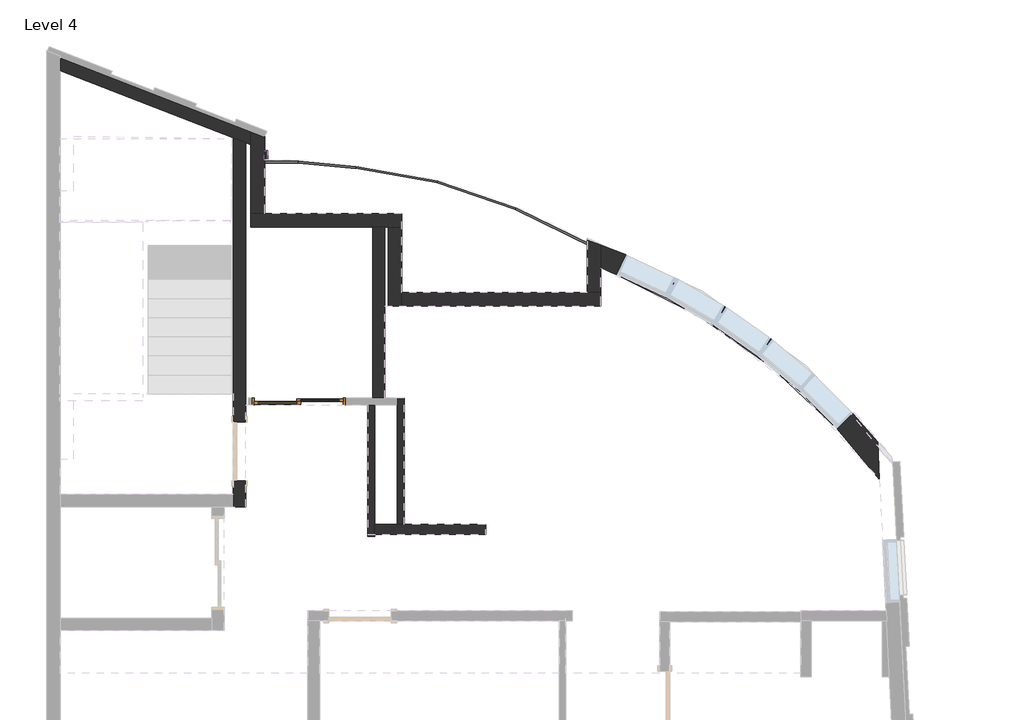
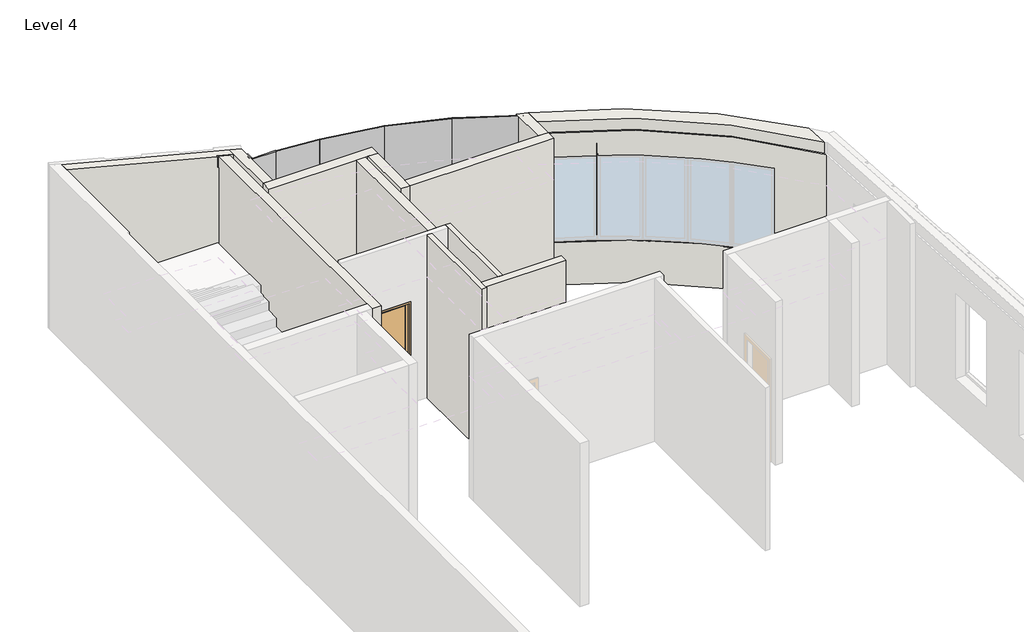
# One storey, part 4 of 5: 13 walls, 5 plates, 2 proxies, 1 door.
"""IFC4 building model written with IfcOpenShell, lengths in millimetres."""

from ifc_helpers import new_model, si_unit, frame, origin, place, context, project, spatial, polyline, circle_curve, outline, extrude, faceted_brep, transform, mapped, element, save
from ifc_brep_helpers import plane_surface, cylinder_surface, revolved_surface, advanced_brep
from components import sliding_door_2_panel_aus_ee5771a8, system_panel_glazed_224d79fb, system_panel_glazed_0fb09b64, system_panel_glazed_2140e779, system_panel_glazed_0c0ff7ba

model = new_model("IFC4")

# Units and contexts
model_context = context("Model", 3, world=origin())
ifc_project = project(units=[si_unit("LENGTHUNIT", "METRE", prefix="MILLI")], contexts=[model_context])

# Site, building, storey
site = spatial("IfcSite", under=ifc_project)
building = spatial("IfcBuilding", under=site)
storey = spatial("IfcBuildingStorey", under=building, Name="Level 4", Elevation=15000.0)

# Proxies
placement = place(None, origin())
element("IfcBuildingElementProxy", 1, Name="Reveal", ObjectType="Reveal", at=placement, inside=storey, context=model_context, shape_type="SweptSolid", body=[
    extrude(outline(polyline([(2938.093022, 13732.1068799), (2988.093022, 13732.1068799), (2988.093022, 13599.3570533), (2938.093022, 13599.3570533), (2938.093022, 13732.1068799)])), frame((0.0, 0.0, 17635.0), z_axis=(0.0, 0.0, 1.0), x_axis=(1.0, 0.0, 0.0)), (0.0, 0.0, 1.0), 50.0),
])
element("IfcBuildingElementProxy", 2, Name="Reveal", ObjectType="Reveal", at=placement, inside=storey, context=model_context, shape_type="SweptSolid", body=[
    extrude(outline(polyline([(2938.093022, 13732.1068799), (2988.093022, 13732.1068799), (2988.093022, 13599.3570533), (2938.093022, 13599.3570533), (2938.093022, 13732.1068799)])), frame((0.0, 0.0, 15875.0), z_axis=(0.0, 0.0, 1.0), x_axis=(1.0, 0.0, 0.0)), (0.0, 0.0, 1.0), 50.0),
])

# Door
sliding_door_2_panel_aus_shape = sliding_door_2_panel_aus_ee5771a8(model_context)
element("IfcDoor", 3, ObjectType="Sliding Door - 2 Panel (AUS) : elavator door", at=placement, inside=storey, context=model_context, shape_type="MappedRepresentation", body=[
    mapped(sliding_door_2_panel_aus_shape, transform((3525.434997, 10056.8748959, 15000.0), x_axis=(-1.0, 0.0, 0.0), y_axis=(0.0, -1.0, 0.0), z_axis=(0.0, 0.0, 1.0))),
])

# Plates
system_panel_glazed_shape = system_panel_glazed_224d79fb(model_context)
element("IfcPlate", 4, ObjectType="System Panel : Glazed", at=placement, inside=storey, context=model_context, shape_type="MappedRepresentation", body=[
    mapped(system_panel_glazed_shape, transform((6054.0124771, 13110.8072352, 15000.0), x_axis=(-0.9455185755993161, 0.32556815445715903, 0.0), y_axis=(-0.32556815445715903, -0.9455185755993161, 0.0), z_axis=(0.0, 0.0, 1.0))),
])
element("IfcPlate", 5, ObjectType="System Panel : Glazed", at=placement, inside=storey, context=model_context, shape_type="MappedRepresentation", body=[
    mapped(system_panel_glazed_shape, transform((4876.5134167, 13415.3291978, 15000.0), x_axis=(-0.9848077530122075, 0.17364817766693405, 0.0), y_axis=(-0.17364817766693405, -0.9848077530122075, 0.0), z_axis=(0.0, 0.0, 1.0))),
])
system_panel_glazed_2_shape = system_panel_glazed_0fb09b64(model_context)
element("IfcPlate", 6, ObjectType="System Panel : Glazed", at=placement, inside=storey, context=model_context, shape_type="MappedRepresentation", body=[
    mapped(system_panel_glazed_2_shape, transform((3856.9795559, 13560.3058198, 15000.0), x_axis=(-0.9956808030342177, 0.09284254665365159, 0.0), y_axis=(-0.09284254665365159, -0.9956808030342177, 0.0), z_axis=(0.0, 0.0, 1.0))),
])
system_panel_glazed_3_shape = system_panel_glazed_2140e779(model_context)
element("IfcPlate", 7, ObjectType="System Panel : Glazed", at=placement, inside=storey, context=model_context, shape_type="MappedRepresentation", body=[
    mapped(system_panel_glazed_3_shape, transform((3189.0685843, 13599.3570533, 15000.0), x_axis=(-1.0, 0.0, 0.0), y_axis=(0.0, -1.0, 0.0), z_axis=(0.0, 0.0, 1.0))),
])
system_panel_glazed_4_shape = system_panel_glazed_0c0ff7ba(model_context)
element("IfcPlate", 8, ObjectType="System Panel : Glazed", at=placement, inside=storey, context=model_context, shape_type="MappedRepresentation", body=[
    mapped(system_panel_glazed_4_shape, transform((7196.5430293, 12636.269013, 15000.0), x_axis=(-0.8987940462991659, 0.43837114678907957, 0.0), y_axis=(-0.43837114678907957, -0.8987940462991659, 0.0), z_axis=(0.0, 0.0, 1.0))),
])

# Walls
element("IfcWall", 9, ObjectType="Generic - 20cm-gypsum-kamposite", at=placement, inside=storey, context=model_context, shape_type="AdvancedBrep", body=[
    advanced_brep(
    [(11908.3121492, 9469.3435074, 18500.0), (7862.3072504, 12351.1222388, 18500.0), (7862.3072504, 12041.0727933, 18500.0), (11933.8152789, 8968.3078963, 18500.0), (7862.3072504, 12351.1222388, 15000.0), (11908.3121492, 9469.3435074, 15000.0), (11936.5482631, 8914.6155682, 15000.0), (7862.3072504, 12008.9189597, 15000.0), (11908.3121492, 9469.3435074, 17745.0), (11544.8906493, 9885.6032931, 17745.0), (11544.8906493, 9885.6032931, 17730.0), (10356.3701317, 10970.353241, 17730.0), (10356.3701317, 10970.353241, 17745.0), (10349.7211648, 10975.4604273, 17745.0), (10349.7211648, 10975.4604273, 17730.0), (9682.5839736, 11443.5981936, 17730.0), (9682.5839736, 11443.5981936, 17745.0), (9675.5092952, 11448.1203824, 17745.0), (9675.5092952, 11448.1203824, 17730.0), (8970.5270255, 11857.0519163, 17730.0), (8970.5270255, 11857.0519163, 17745.0), (8958.907306, 11863.1346618, 17745.0), (8958.907306, 11863.1346618, 17730.0), (8221.1493402, 12209.4555878, 17730.0), (8221.1493402, 12209.4555878, 17745.0), (7862.3072504, 12351.1222388, 17745.0), (7862.3072504, 12351.1222388, 15875.0), (11908.3121492, 9469.3435074, 15875.0), (11908.3121492, 9469.3435074, 15925.0), (11544.8906493, 9885.6032931, 15925.0), (11544.8906493, 9885.6032931, 17695.0), (11908.3121492, 9469.3435074, 17695.0), (8221.1493402, 12209.4555878, 15925.0), (7862.3072504, 12351.1222388, 15925.0), (7862.3072504, 12351.1222388, 17695.0), (8221.1493402, 12209.4555878, 17695.0), (10356.3701317, 10970.353241, 15925.0), (10349.7211648, 10975.4604273, 15925.0), (10349.7211648, 10975.4604273, 17695.0), (10356.3701317, 10970.353241, 17695.0), (9682.5839736, 11443.5981936, 15925.0), (9675.5092952, 11448.1203824, 15925.0), (9675.5092952, 11448.1203824, 17695.0), (9682.5839736, 11443.5981936, 17695.0), (8970.5270255, 11857.0519163, 15925.0), (8958.907306, 11863.1346618, 15925.0), (8958.907306, 11863.1346618, 17695.0), (8970.5270255, 11857.0519163, 17695.0), (11936.5482631, 8914.6155682, 18259.0), (7862.3072504, 12008.9189597, 18259.0), (8085.0423074, 11919.5105106, 15900.0), (8085.0423074, 11919.5105106, 17730.0), (11319.3000133, 9658.2222537, 17730.0), (11319.3000133, 9658.2222537, 15900.0), (11910.4512496, 9427.3186475, 15875.0), (11910.4512496, 9427.3186475, 15925.0), (11910.4512496, 9427.3186475, 17695.0), (11910.4512496, 9427.3186475, 17745.0), (11933.8152789, 8968.3078963, 18259.0), (11527.266896, 9867.8396686, 17730.0), (11527.266896, 9867.8396686, 17695.0), (11527.266896, 9867.8396686, 15925.0), (11527.266896, 9867.8396686, 15900.0), (10335.3479854, 10954.9773917, 17730.0), (10293.8645813, 10895.8599189, 17730.0), (10340.2860207, 10951.1844014, 17730.0), (8210.516289, 12186.8042907, 17730.0), (8948.2742549, 11840.4833647, 17730.0), (8894.6346191, 11726.2163204, 17730.0), (8957.9716481, 11835.4069275, 17730.0), (9662.9539178, 11426.4753937, 17730.0), (9626.6451976, 11363.8805536, 17730.0), (9668.2107942, 11423.1151579, 17730.0), (10293.8645813, 10895.8599189, 15900.0), (10340.2860207, 10951.1844014, 15900.0), (10340.2860207, 10951.1844014, 15925.0), (10340.2860207, 10951.1844014, 17695.0), (10335.3479854, 10954.9773917, 15900.0), (9668.2107942, 11423.1151579, 15900.0), (9626.6451976, 11363.8805536, 15900.0), (9662.9539178, 11426.4753937, 15900.0), (8957.9716481, 11835.4069275, 15900.0), (8894.6346191, 11726.2163204, 15900.0), (8948.2742549, 11840.4833647, 15900.0), (8210.516289, 12186.8042907, 15900.0), (10335.3479854, 10954.9773917, 17695.0), (10335.3479854, 10954.9773917, 15925.0), (9668.2107942, 11423.1151579, 15925.0), (9668.2107942, 11423.1151579, 17695.0), (9662.9539178, 11426.4753937, 17695.0), (9662.9539178, 11426.4753937, 15925.0), (8957.9716481, 11835.4069275, 15925.0), (8957.9716481, 11835.4069275, 17695.0), (8948.2742549, 11840.4833647, 17695.0), (8948.2742549, 11840.4833647, 15925.0), (8210.516289, 12186.8042907, 15925.0), (8210.516289, 12186.8042907, 17695.0), (7862.3072504, 12041.0727933, 18259.0), (7862.3072504, 12324.4469309, 17745.0), (7862.3072504, 12324.4469309, 17695.0), (7862.3072504, 12324.4469309, 15925.0), (7862.3072504, 12324.4469309, 15875.0), (11527.266896, 9867.8396686, 17745.0), (8210.516289, 12186.8042907, 17745.0), (8957.9716481, 11835.4069275, 17745.0), (8948.2742549, 11840.4833647, 17745.0), (9668.2107942, 11423.1151579, 17745.0), (9662.9539178, 11426.4753937, 17745.0), (10340.2860207, 10951.1844014, 17745.0), (10335.3479854, 10954.9773917, 17745.0)],
    [
        (0, 1, circle_curve(frame((4535.6080259, 3399.2748166, 18500.0), z_axis=(0.0, 0.0, 1.0), x_axis=(0.7954529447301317, 0.6060153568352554, 0.0)), 9550.0)),
        (1, 2),
        (2, 3, circle_curve(frame((4535.6080259, 3399.2748166, 18500.0), z_axis=(0.0, 0.0, -1.0), x_axis=(1.0, 0.0, 0.0)), 9260.0)),
        (3, 0),
        (4, 5, circle_curve(frame((4535.6080259, 3399.2748166, 15000.0), z_axis=(0.0, 0.0, -1.0), x_axis=(0.7954529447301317, 0.6060153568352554, 0.0)), 9550.0)),
        (5, 6),
        (6, 7, circle_curve(frame((4535.6080259, 3399.2748166, 15000.0), z_axis=(0.0, 0.0, 1.0), x_axis=(0.7954529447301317, 0.6060153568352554, 0.0)), 9230.0)),
        (7, 4),
        (0, 8),
        (8, 9, circle_curve(frame((4535.6080259, 3399.2748166, 17745.0), z_axis=(0.0, 0.0, 1.0), x_axis=(0.7954529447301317, 0.6060153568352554, 0.0)), 9550.0)),
        (9, 10),
        (10, 11, circle_curve(frame((4535.6080259, 3399.2748166, 17730.0), z_axis=(0.0, 0.0, 1.0), x_axis=(0.7954529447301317, 0.6060153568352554, 0.0)), 9550.0)),
        (11, 12),
        (12, 13, circle_curve(frame((4535.6080259, 3399.2748166, 17745.0), z_axis=(0.0, 0.0, 1.0), x_axis=(0.7954529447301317, 0.6060153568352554, 0.0)), 9550.0)),
        (13, 14),
        (14, 15, circle_curve(frame((4535.6080259, 3399.2748166, 17730.0), z_axis=(0.0, 0.0, 1.0), x_axis=(0.7954529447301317, 0.6060153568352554, 0.0)), 9550.0)),
        (15, 16),
        (16, 17, circle_curve(frame((4535.6080259, 3399.2748166, 17745.0), z_axis=(0.0, 0.0, 1.0), x_axis=(0.7954529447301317, 0.6060153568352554, 0.0)), 9550.0)),
        (17, 18),
        (18, 19, circle_curve(frame((4535.6080259, 3399.2748166, 17730.0), z_axis=(0.0, 0.0, 1.0), x_axis=(0.7954529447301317, 0.6060153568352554, 0.0)), 9550.0)),
        (19, 20),
        (20, 21, circle_curve(frame((4535.6080259, 3399.2748166, 17745.0), z_axis=(0.0, 0.0, 1.0), x_axis=(0.7954529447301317, 0.6060153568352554, 0.0)), 9550.0)),
        (21, 22),
        (22, 23, circle_curve(frame((4535.6080259, 3399.2748166, 17730.0), z_axis=(0.0, 0.0, 1.0), x_axis=(0.7954529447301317, 0.6060153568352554, 0.0)), 9550.0)),
        (23, 24),
        (24, 25, circle_curve(frame((4535.6080259, 3399.2748166, 17745.0), z_axis=(0.0, 0.0, 1.0), x_axis=(0.7954529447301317, 0.6060153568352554, 0.0)), 9550.0)),
        (25, 1),
        (4, 26),
        (26, 27, circle_curve(frame((4535.6080259, 3399.2748166, 15875.0), z_axis=(0.0, 0.0, -1.0), x_axis=(0.7954529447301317, 0.6060153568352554, 0.0)), 9550.0)),
        (27, 5),
        (28, 29, circle_curve(frame((4535.6080259, 3399.2748166, 15925.0), z_axis=(0.0, 0.0, 1.0), x_axis=(0.7954529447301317, 0.6060153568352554, 0.0)), 9550.0)),
        (29, 30),
        (30, 31, circle_curve(frame((4535.6080259, 3399.2748166, 17695.0), z_axis=(0.0, 0.0, -1.0), x_axis=(0.7954529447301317, 0.6060153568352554, 0.0)), 9550.0)),
        (31, 28),
        (32, 33, circle_curve(frame((4535.6080259, 3399.2748166, 15925.0), z_axis=(0.0, 0.0, 1.0), x_axis=(0.7954529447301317, 0.6060153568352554, 0.0)), 9550.0)),
        (33, 34),
        (34, 35, circle_curve(frame((4535.6080259, 3399.2748166, 17695.0), z_axis=(0.0, 0.0, -1.0), x_axis=(0.7954529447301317, 0.6060153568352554, 0.0)), 9550.0)),
        (35, 32),
        (36, 37, circle_curve(frame((4535.6080259, 3399.2748166, 15925.0), z_axis=(0.0, 0.0, 1.0), x_axis=(0.7954529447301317, 0.6060153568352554, 0.0)), 9550.0)),
        (37, 38),
        (38, 39, circle_curve(frame((4535.6080259, 3399.2748166, 17695.0), z_axis=(0.0, 0.0, -1.0), x_axis=(0.7954529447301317, 0.6060153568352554, 0.0)), 9550.0)),
        (39, 36),
        (40, 41, circle_curve(frame((4535.6080259, 3399.2748166, 15925.0), z_axis=(0.0, 0.0, 1.0), x_axis=(0.7954529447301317, 0.6060153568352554, 0.0)), 9550.0)),
        (41, 42),
        (42, 43, circle_curve(frame((4535.6080259, 3399.2748166, 17695.0), z_axis=(0.0, 0.0, -1.0), x_axis=(0.7954529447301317, 0.6060153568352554, 0.0)), 9550.0)),
        (43, 40),
        (44, 45, circle_curve(frame((4535.6080259, 3399.2748166, 15925.0), z_axis=(0.0, 0.0, 1.0), x_axis=(0.7954529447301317, 0.6060153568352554, 0.0)), 9550.0)),
        (45, 46),
        (46, 47, circle_curve(frame((4535.6080259, 3399.2748166, 17695.0), z_axis=(0.0, 0.0, -1.0), x_axis=(0.7954529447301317, 0.6060153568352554, 0.0)), 9550.0)),
        (47, 44),
        (6, 48),
        (48, 49, circle_curve(frame((4535.6080259, 3399.2748166, 18259.0), z_axis=(0.0, 0.0, 1.0), x_axis=(0.7954529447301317, 0.6060153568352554, 0.0)), 9230.0)),
        (49, 7),
        (50, 51),
        (51, 52, circle_curve(frame((4535.6080259, 3399.2748166, 17730.0), z_axis=(0.0, 0.0, -1.0), x_axis=(0.7954529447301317, 0.6060153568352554, 0.0)), 9230.0)),
        (52, 53),
        (53, 50, circle_curve(frame((4535.6080259, 3399.2748166, 15900.0), z_axis=(0.0, 0.0, 1.0), x_axis=(0.7954529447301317, 0.6060153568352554, 0.0)), 9230.0)),
        (27, 54),
        (54, 55),
        (55, 28),
        (31, 56),
        (56, 57),
        (57, 8),
        (3, 58),
        (58, 48),
        (52, 59),
        (59, 60),
        (60, 30),
        (29, 61),
        (61, 62),
        (62, 53),
        (14, 63),
        (63, 64),
        (64, 65),
        (65, 11),
        (10, 59),
        (51, 66),
        (66, 23),
        (22, 67),
        (67, 68),
        (68, 69),
        (69, 19),
        (18, 70),
        (70, 71),
        (71, 72),
        (72, 15),
        (64, 73),
        (73, 74),
        (74, 75),
        (75, 36),
        (39, 76),
        (76, 65),
        (62, 74, circle_curve(frame((4535.6080259, 3399.2748166, 15900.0), z_axis=(0.0, 0.0, 1.0), x_axis=(0.32740306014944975, 0.9448847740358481, 0.0)), 9525.0)),
        (73, 77),
        (77, 78, circle_curve(frame((4535.6080259, 3399.2748166, 15900.0), z_axis=(0.0, 0.0, 1.0), x_axis=(0.32740306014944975, 0.9448847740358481, 0.0)), 9525.0)),
        (78, 79),
        (79, 80),
        (80, 81, circle_curve(frame((4535.6080259, 3399.2748166, 15900.0), z_axis=(0.0, 0.0, 1.0), x_axis=(0.32740306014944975, 0.9448847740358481, 0.0)), 9525.0)),
        (81, 82),
        (82, 83),
        (83, 84, circle_curve(frame((4535.6080259, 3399.2748166, 15900.0), z_axis=(0.0, 0.0, 1.0), x_axis=(0.32740306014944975, 0.9448847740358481, 0.0)), 9525.0)),
        (84, 50),
        (63, 85),
        (85, 38),
        (37, 86),
        (86, 77),
        (71, 79),
        (78, 87),
        (87, 40),
        (43, 88),
        (88, 72),
        (70, 89),
        (89, 42),
        (41, 90),
        (90, 80),
        (68, 82),
        (81, 91),
        (91, 44),
        (47, 92),
        (92, 69),
        (67, 93),
        (93, 46),
        (45, 94),
        (94, 83),
        (84, 95),
        (95, 32),
        (35, 96),
        (96, 66),
        (49, 97),
        (97, 2),
        (25, 98),
        (98, 99),
        (99, 34),
        (33, 100),
        (100, 101),
        (101, 26),
        (55, 61, circle_curve(frame((4535.6080259, 3399.2748166, 15925.0), z_axis=(0.0, 0.0, 1.0), x_axis=(0.32740306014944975, 0.9448847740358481, 0.0)), 9525.0)),
        (95, 100, circle_curve(frame((4535.6080259, 3399.2748166, 15925.0), z_axis=(0.0, 0.0, 1.0), x_axis=(0.32740306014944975, 0.9448847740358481, 0.0)), 9525.0)),
        (75, 86, circle_curve(frame((4535.6080259, 3399.2748166, 15925.0), z_axis=(0.0, 0.0, 1.0), x_axis=(0.32740306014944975, 0.9448847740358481, 0.0)), 9525.0)),
        (87, 90, circle_curve(frame((4535.6080259, 3399.2748166, 15925.0), z_axis=(0.0, 0.0, 1.0), x_axis=(0.32740306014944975, 0.9448847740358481, 0.0)), 9525.0)),
        (91, 94, circle_curve(frame((4535.6080259, 3399.2748166, 15925.0), z_axis=(0.0, 0.0, 1.0), x_axis=(0.32740306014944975, 0.9448847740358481, 0.0)), 9525.0)),
        (101, 54, circle_curve(frame((4535.6080259, 3399.2748166, 15875.0), z_axis=(0.0, 0.0, -1.0), x_axis=(0.32740306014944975, 0.9448847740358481, 0.0)), 9525.0)),
        (57, 102, circle_curve(frame((4535.6080259, 3399.2748166, 17745.0), z_axis=(0.0, 0.0, 1.0), x_axis=(0.7339562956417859, 0.6791966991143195, 0.0)), 9525.0)),
        (102, 9),
        (60, 56, circle_curve(frame((4535.6080259, 3399.2748166, 17695.0), z_axis=(0.0, 0.0, -1.0), x_axis=(0.7339562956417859, 0.6791966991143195, 0.0)), 9525.0)),
        (59, 102),
        (24, 103),
        (103, 98, circle_curve(frame((4535.6080259, 3399.2748166, 17745.0), z_axis=(0.0, 0.0, 1.0), x_axis=(0.32740306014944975, 0.9448847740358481, 0.0)), 9525.0)),
        (99, 96, circle_curve(frame((4535.6080259, 3399.2748166, 17695.0), z_axis=(0.0, 0.0, -1.0), x_axis=(0.32740306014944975, 0.9448847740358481, 0.0)), 9525.0)),
        (103, 66),
        (104, 105, circle_curve(frame((4535.6080259, 3399.2748166, 17745.0), z_axis=(0.0, 0.0, 1.0), x_axis=(0.4631726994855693, 0.8862680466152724, 0.0)), 9525.0)),
        (105, 21),
        (20, 104),
        (93, 92, circle_curve(frame((4535.6080259, 3399.2748166, 17695.0), z_axis=(0.0, 0.0, -1.0), x_axis=(0.4631726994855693, 0.8862680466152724, 0.0)), 9525.0)),
        (104, 69),
        (67, 105),
        (106, 107, circle_curve(frame((4535.6080259, 3399.2748166, 17745.0), z_axis=(0.0, 0.0, 1.0), x_axis=(0.5382095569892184, 0.8428110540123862, 0.0)), 9525.0)),
        (107, 17),
        (16, 106),
        (89, 88, circle_curve(frame((4535.6080259, 3399.2748166, 17695.0), z_axis=(0.0, 0.0, -1.0), x_axis=(0.5382095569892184, 0.8428110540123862, 0.0)), 9525.0)),
        (106, 72),
        (70, 107),
        (108, 109, circle_curve(frame((4535.6080259, 3399.2748166, 17745.0), z_axis=(0.0, 0.0, 1.0), x_axis=(0.6088076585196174, 0.7933178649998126, 0.0)), 9525.0)),
        (109, 13),
        (12, 108),
        (85, 76, circle_curve(frame((4535.6080259, 3399.2748166, 17695.0), z_axis=(0.0, 0.0, -1.0), x_axis=(0.6088076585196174, 0.7933178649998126, 0.0)), 9525.0)),
        (108, 65),
        (63, 109),
        (58, 97, circle_curve(frame((4535.6080259, 3399.2748166, 18259.0), z_axis=(0.0, 0.0, 1.0), x_axis=(1.0, 0.0, 0.0)), 9260.0)),
    ],
    [
        plane_surface(frame((12132.1836481, 9186.7214744, 18500.0), z_axis=(0.0, 0.0, 1.0), x_axis=(-0.6060153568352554, 0.7954529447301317, 0.0))),
        plane_surface(frame((12132.1836481, 9186.7214744, 15000.0), z_axis=(0.0, 0.0, -1.0), x_axis=(0.6060153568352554, -0.7954529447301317, 0.0))),
        cylinder_surface(frame((4535.6080259, 3399.2748166, 15000.0), z_axis=(0.0, 0.0, 1.0), x_axis=(0.7954529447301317, 0.6060153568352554, 0.0)), 9550.0),
        revolved_surface(polyline([(11877.638705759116, 8992.796560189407, 15000.0), (11877.638705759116, 8992.796560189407, 18259.0)]), (4535.6080259, 3399.2748166, 15000.0), (0.0, 0.0, -1.0)),
        plane_surface(frame((11929.5360205, 9052.3783941, 15000.0), z_axis=(0.9987070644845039, 0.05083502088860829, 0.0), x_axis=(0.05083502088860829, -0.9987070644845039, 0.0))),
        plane_surface(frame((10471.5277129, 8803.721596, 15900.0), z_axis=(-0.7098961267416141, 0.7043063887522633, 0.0), x_axis=(0.7043063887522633, 0.7098961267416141, 0.0))),
        plane_surface(frame((10001.1116007, 9279.0246578, 17730.0), z_axis=(0.0, 0.0, -1.0), x_axis=(0.6427769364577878, 0.7660533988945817, 0.0))),
        plane_surface(frame((9376.7780806, 9802.887861, 17730.0), z_axis=(0.7660533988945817, -0.6427769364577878, 0.0), x_axis=(0.6427769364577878, 0.7660533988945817, 0.0))),
        plane_surface(frame((9376.7780806, 9802.887861, 15900.0), z_axis=(0.0, 0.0, 1.0), x_axis=(0.6427769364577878, 0.7660533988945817, 0.0))),
        plane_surface(frame((9474.332262, 9727.9548086, 15900.0), z_axis=(-0.8185732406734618, 0.5744021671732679, 0.0), x_axis=(0.5744021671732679, 0.8185732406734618, 0.0))),
        plane_surface(frame((8807.1950709, 10196.0925748, 17730.0), z_axis=(0.8185732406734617, -0.574402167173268, 0.0), x_axis=(0.574402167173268, 0.8185732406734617, 0.0))),
        plane_surface(frame((8910.8324147, 10129.8467885, 15900.0), z_axis=(-0.8650089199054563, 0.5017564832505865, 0.0), x_axis=(0.5017564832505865, 0.8650089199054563, 0.0))),
        plane_surface(frame((8205.850145, 10538.7783223, 17730.0), z_axis=(0.8650089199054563, -0.5017564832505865, 0.0), x_axis=(0.5017564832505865, 0.8650089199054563, 0.0))),
        plane_surface(frame((8311.308421, 10483.5725268, 15900.0), z_axis=(-0.9052244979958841, 0.42493365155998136, 0.0), x_axis=(0.42493365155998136, 0.9052244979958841, 0.0))),
        plane_surface(frame((7573.5504552, 10829.8934528, 17730.0), z_axis=(0.9052244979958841, -0.42493365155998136, 0.0), x_axis=(0.42493365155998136, 0.9052244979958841, 0.0))),
        plane_surface(frame((7862.3072504, 12316.4556234, 15000.0), z_axis=(-1.0, 0.0, 0.0), x_axis=(0.0, 1.0, 0.0))),
        plane_surface(frame((4535.6080259, 3399.2748166, 15925.0), z_axis=(0.0, 0.0, -1.0), x_axis=(0.32740306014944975, 0.9448847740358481, 0.0))),
        plane_surface(frame((4535.6080259, 3399.2748166, 15875.0), z_axis=(0.0, 0.0, 1.0), x_axis=(0.32740306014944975, 0.9448847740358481, 0.0))),
        cylinder_surface(frame((4535.6080259, 3399.2748166, 15900.0), z_axis=(0.0, 0.0, -1.0), x_axis=(0.32740306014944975, 0.9448847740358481, 0.0)), 9525.0),
        plane_surface(frame((4535.6080259, 3399.2748166, 17745.0), z_axis=(0.0, 0.0, -1.0), x_axis=(0.7339562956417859, 0.6791966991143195, 0.0))),
        plane_surface(frame((4535.6080259, 3399.2748166, 17695.0), z_axis=(0.0, 0.0, 1.0), x_axis=(0.7339562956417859, 0.6791966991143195, 0.0))),
        cylinder_surface(frame((4535.6080259, 3399.2748166, 17720.0), z_axis=(0.0, 0.0, -1.0), x_axis=(0.7339562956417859, 0.6791966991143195, 0.0)), 9525.0),
        plane_surface(frame((4535.6080259, 3399.2748166, 17745.0), z_axis=(0.0, 0.0, -1.0), x_axis=(0.32740306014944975, 0.9448847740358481, 0.0))),
        plane_surface(frame((4535.6080259, 3399.2748166, 17695.0), z_axis=(0.0, 0.0, 1.0), x_axis=(0.32740306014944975, 0.9448847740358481, 0.0))),
        cylinder_surface(frame((4535.6080259, 3399.2748166, 17720.0), z_axis=(0.0, 0.0, -1.0), x_axis=(0.32740306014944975, 0.9448847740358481, 0.0)), 9525.0),
        plane_surface(frame((7573.5504552, 10829.8934528, 17730.0), z_axis=(-0.9052244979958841, 0.42493365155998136, 0.0), x_axis=(0.42493365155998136, 0.9052244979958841, 0.0))),
        plane_surface(frame((4535.6080259, 3399.2748166, 17745.0), z_axis=(0.0, 0.0, -1.0), x_axis=(0.4631726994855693, 0.8862680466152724, 0.0))),
        plane_surface(frame((4535.6080259, 3399.2748166, 17695.0), z_axis=(0.0, 0.0, 1.0), x_axis=(0.4631726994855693, 0.8862680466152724, 0.0))),
        cylinder_surface(frame((4535.6080259, 3399.2748166, 17720.0), z_axis=(0.0, 0.0, -1.0), x_axis=(0.4631726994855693, 0.8862680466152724, 0.0)), 9525.0),
        plane_surface(frame((8311.308421, 10483.5725268, 15900.0), z_axis=(0.9052244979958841, -0.42493365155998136, 0.0), x_axis=(0.42493365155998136, 0.9052244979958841, 0.0))),
        plane_surface(frame((8205.850145, 10538.7783223, 17730.0), z_axis=(-0.8650089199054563, 0.5017564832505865, 0.0), x_axis=(0.5017564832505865, 0.8650089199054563, 0.0))),
        plane_surface(frame((4535.6080259, 3399.2748166, 17745.0), z_axis=(0.0, 0.0, -1.0), x_axis=(0.5382095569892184, 0.8428110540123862, 0.0))),
        plane_surface(frame((4535.6080259, 3399.2748166, 17695.0), z_axis=(0.0, 0.0, 1.0), x_axis=(0.5382095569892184, 0.8428110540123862, 0.0))),
        cylinder_surface(frame((4535.6080259, 3399.2748166, 17720.0), z_axis=(0.0, 0.0, -1.0), x_axis=(0.5382095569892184, 0.8428110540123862, 0.0)), 9525.0),
        plane_surface(frame((8910.8324147, 10129.8467885, 15900.0), z_axis=(0.8650089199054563, -0.5017564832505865, 0.0), x_axis=(0.5017564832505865, 0.8650089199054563, 0.0))),
        plane_surface(frame((8807.1950709, 10196.0925748, 17730.0), z_axis=(-0.8185732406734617, 0.574402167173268, 0.0), x_axis=(0.574402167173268, 0.8185732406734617, 0.0))),
        plane_surface(frame((4535.6080259, 3399.2748166, 17745.0), z_axis=(0.0, 0.0, -1.0), x_axis=(0.6088076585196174, 0.7933178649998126, 0.0))),
        plane_surface(frame((4535.6080259, 3399.2748166, 17695.0), z_axis=(0.0, 0.0, 1.0), x_axis=(0.6088076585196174, 0.7933178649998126, 0.0))),
        cylinder_surface(frame((4535.6080259, 3399.2748166, 17720.0), z_axis=(0.0, 0.0, -1.0), x_axis=(0.6088076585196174, 0.7933178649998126, 0.0)), 9525.0),
        plane_surface(frame((9474.332262, 9727.9548086, 15900.0), z_axis=(0.8185732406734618, -0.5744021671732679, 0.0), x_axis=(0.5744021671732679, 0.8185732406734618, 0.0))),
        plane_surface(frame((9376.7780806, 9802.887861, 17730.0), z_axis=(-0.7660533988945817, 0.6427769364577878, 0.0), x_axis=(0.6427769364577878, 0.7660533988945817, 0.0))),
        plane_surface(frame((10471.5277129, 8803.721596, 15900.0), z_axis=(0.7098961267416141, -0.7043063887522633, 0.0), x_axis=(0.7043063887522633, 0.7098961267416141, 0.0))),
        plane_surface(frame((-80.0421304, 14944.8648867, 18259.0), z_axis=(0.0, 0.0, 1.0), x_axis=(0.9323005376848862, -0.36168454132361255, 0.0))),
        revolved_surface(polyline([(13795.608025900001, 3399.2748166, 18259.0), (13795.608025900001, 3399.2748166, 18500.0)]), (4535.6080259, 3399.2748166, 18500.0), (0.0, 0.0, -1.0)),
    ],
    [
        (0, [[1, 2, 3, 4]]),
        (1, [[5, 6, 7, 8]]),
        (2, [[-1, 9, 10, 11, 12, 13, 14, 15, 16, 17, 18, 19, 20, 21, 22, 23, 24, 25, 26, 27]]),
        (2, [[-5, 28, 29, 30]]),
        (2, [[31, 32, 33, 34]]),
        (2, [[35, 36, 37, 38]]),
        (2, [[39, 40, 41, 42]]),
        (2, [[43, 44, 45, 46]]),
        (2, [[47, 48, 49, 50]]),
        (3, [[-7, 51, 52, 53], [54, 55, 56, 57]]),
        (4, [[-6, -30, 58, 59, 60, -34, 61, 62, 63, -9, -4, 64, 65, -51]]),
        (5, [[-56, 66, 67, 68, -32, 69, 70, 71]]),
        (6, [[-16, 72, 73, 74, 75, -12, 76, -66, -55, 77, 78, -24, 79, 80, 81, 82, -20, 83, 84, 85, 86]]),
        (7, [[87, 88, 89, 90, -42, 91, 92, -74]]),
        (8, [[-57, -71, 93, -88, 94, 95, 96, 97, 98, 99, 100, 101, 102]]),
        (9, [[-87, -73, 103, 104, -40, 105, 106, -94]]),
        (10, [[107, -96, 108, 109, -46, 110, 111, -85]]),
        (11, [[-107, -84, 112, 113, -44, 114, 115, -97]]),
        (12, [[116, -99, 117, 118, -50, 119, 120, -81]]),
        (13, [[-116, -80, 121, 122, -48, 123, 124, -100]]),
        (14, [[-54, -102, 125, 126, -38, 127, 128, -77]]),
        (15, [[-8, -53, 129, 130, -2, -27, 131, 132, 133, -36, 134, 135, 136, -28]]),
        (16, [[137, -69, -31, -60]]),
        (16, [[-134, -35, -126, 138]]),
        (16, [[139, -105, -39, -90]]),
        (16, [[140, -114, -43, -109]]),
        (16, [[141, -123, -47, -118]]),
        (17, [[142, -58, -29, -136]]),
        (18, [[-137, -59, -142, -135, -138, -125, -101, -124, -141, -117, -98, -115, -140, -108, -95, -106, -139, -89, -93, -70]]),
        (19, [[143, 144, -10, -63]]),
        (20, [[145, -61, -33, -68]]),
        (21, [[-143, -62, -145, -67, 146]]),
        (22, [[147, 148, -131, -26]]),
        (23, [[149, -127, -37, -133]]),
        (24, [[150, -128, -149, -132, -148]]),
        (25, [[-150, -147, -25, -78]]),
        (26, [[151, 152, -22, 153]]),
        (27, [[154, -119, -49, -122]]),
        (28, [[-151, 155, -120, -154, -121, 156]]),
        (29, [[-156, -79, -23, -152]]),
        (30, [[-155, -153, -21, -82]]),
        (31, [[157, 158, -18, 159]]),
        (32, [[160, -110, -45, -113]]),
        (33, [[-157, 161, -111, -160, -112, 162]]),
        (34, [[-162, -83, -19, -158]]),
        (35, [[-161, -159, -17, -86]]),
        (36, [[163, 164, -14, 165]]),
        (37, [[166, -91, -41, -104]]),
        (38, [[-163, 167, -92, -166, -103, 168]]),
        (39, [[-168, -72, -15, -164]]),
        (40, [[-167, -165, -13, -75]]),
        (41, [[-146, -76, -11, -144]]),
        (42, [[169, -129, -52, -65]]),
        (43, [[-169, -64, -3, -130]]),
    ],
),
])
element("IfcWall", 10, ObjectType="Generic - 15cm-gypsu-2boith", at=placement, inside=storey, context=model_context, shape_type="Brep", body=[
    faceted_brep([(4549.2779066, 8112.262158, 15000.0), (6174.9402277, 8112.262158, 15000.0), (6174.9402277, 8112.262158, 18500.0), (4549.2779066, 8112.262158, 18500.0), (4549.2779066, 8262.262158, 15000.0), (4549.2779066, 8262.262158, 18500.0), (4879.9402277, 8262.262158, 18500.0), (4979.9402277, 8262.262158, 18500.0), (6174.9402277, 8262.262158, 18500.0), (6174.9402277, 8262.262158, 15000.0), (4979.9402277, 8262.262158, 15000.0), (4879.9402277, 8262.262158, 15000.0)], [[[0, 1, 2, 3]], [[4, 5, 6, 7, 8, 9, 10, 11]], [[1, 0, 4, 11, 10, 9]], [[2, 1, 9, 8]], [[3, 2, 8, 7, 6, 5]], [[0, 3, 5, 4]]]),
])
element("IfcWall", 11, ObjectType="Generic - 10cm-gypsu-2boith", at=placement, inside=storey, context=model_context, shape_type="Brep", body=[
    faceted_brep([(4549.2779066, 8082.262158, 15000.0), (4549.2779066, 8112.262158, 15000.0), (4549.2779066, 8262.262158, 15000.0), (4549.2779066, 10006.8748959, 15000.0), (4549.2779066, 10006.8748959, 18500.0), (4549.2779066, 8262.262158, 18500.0), (4549.2779066, 8112.262158, 18500.0), (4549.2779066, 8082.262158, 18500.0), (4449.2779066, 8082.262158, 15000.0), (4449.2779066, 8082.262158, 18500.0), (4449.2779066, 10006.8748959, 18500.0), (4449.2779066, 10006.8748959, 15000.0)], [[[0, 1, 2, 3, 4, 5, 6, 7]], [[8, 9, 10, 11]], [[3, 2, 1, 0, 8, 11]], [[7, 6, 5, 4, 10, 9]], [[0, 7, 9, 8]], [[4, 3, 11, 10]]]),
])
element("IfcWall", 12, ObjectType="Generic - 10cm-gypsu-2boith", at=placement, inside=storey, context=model_context, shape_type="Brep", body=[
    faceted_brep([(4879.9402277, 10106.8748959, 15000.0), (4879.9402277, 10006.8748959, 15000.0), (4879.9402277, 8262.262158, 15000.0), (4879.9402277, 8262.262158, 18500.0), (4879.9402277, 10006.8748959, 18500.0), (4879.9402277, 10106.8748959, 18500.0), (4979.9402277, 10106.8748959, 15000.0), (4979.9402277, 10106.8748959, 18500.0), (4979.9402277, 8262.262158, 18500.0), (4979.9402277, 8262.262158, 15000.0)], [[[0, 1, 2, 3, 4, 5]], [[6, 7, 8, 9]], [[2, 1, 0, 6, 9]], [[5, 4, 3, 8, 7]], [[3, 2, 9, 8]], [[0, 5, 7, 6]]]),
])
element("IfcWall", 13, ObjectType="Generic - 18cm-gypsu-2boith 2", at=placement, inside=storey, context=model_context, shape_type="Brep", body=[
    faceted_brep([(2661.8607589, 8516.8748746, 15000.0), (2661.8607589, 8896.8748746, 15000.0), (2661.8607589, 8896.8748746, 17032.0), (2661.8607589, 9760.8748746, 17032.0), (2661.8607589, 9760.8748746, 15000.0), (2661.8607589, 13848.9694672, 15000.0), (2661.8607589, 13848.9694672, 18500.0), (2661.8607589, 8516.8748746, 18500.0), (2481.8607589, 8896.8748746, 17032.0), (2481.8607589, 8896.8748746, 15000.0), (2481.8607589, 8696.8748746, 15000.0), (2481.8607589, 8516.8748746, 15000.0), (2481.8607589, 8516.8748746, 18500.0), (2481.8607589, 8696.8748746, 18500.0), (2481.8607589, 13918.8001868, 18500.0), (2481.8607589, 13918.8001868, 15000.0), (2481.8607589, 9760.8748746, 15000.0), (2481.8607589, 9760.8748746, 17032.0)], [[[0, 1, 2, 3, 4, 5, 6, 7]], [[8, 9, 10, 11, 12, 13, 14, 15, 16, 17]], [[16, 15, 5, 4]], [[11, 10, 9, 1, 0]], [[7, 6, 14, 13, 12]], [[6, 5, 15, 14]], [[0, 7, 12, 11]], [[2, 1, 9, 8]], [[3, 2, 8, 17]], [[4, 3, 17, 16]]]),
])
element("IfcWall", 14, ObjectType="Generic - 18cm-gypsu-2boith 2", at=placement, inside=storey, context=model_context, shape_type="SweptSolid", body=[
    extrude(outline(polyline([(4519.9587688, 10106.8748959), (4519.9587688, 12611.9409286), (4699.9587688, 12611.9409286), (4699.9587688, 10106.8748959), (4519.9587688, 10106.8748959)])), frame((0.0, 0.0, 15000.0), z_axis=(0.0, 0.0, 1.0), x_axis=(1.0, 0.0, 0.0)), (0.0, 0.0, 1.0), 3500.0),
])
element("IfcWall", 15, ObjectType="kamposite5cm", at=placement, inside=storey, context=model_context, shape_type="Brep", body=[
    faceted_brep([(2913.093022, 13751.504302, 15000.0), (2913.093022, 13599.3570533, 15000.0), (2913.093022, 13599.3570533, 18500.0), (2913.093022, 13751.504302, 18500.0), (2963.093022, 13599.3570533, 15000.0), (2963.093022, 13732.1068799, 15000.0), (2963.093022, 13732.1068799, 15875.0), (2963.093022, 13599.3570533, 15875.0), (2963.093022, 13732.1068799, 18500.0), (2963.093022, 13599.3570533, 18500.0), (2963.093022, 13599.3570533, 17685.0), (2963.093022, 13732.1068799, 17685.0), (2963.093022, 13732.1068799, 17635.0), (2963.093022, 13599.3570533, 17635.0), (2963.093022, 13599.3570533, 15925.0), (2963.093022, 13732.1068799, 15925.0), (2938.093022, 13599.3570533, 15875.0), (2938.093022, 13599.3570533, 15925.0), (2938.093022, 13599.3570533, 17635.0), (2938.093022, 13599.3570533, 17685.0), (2938.093022, 13732.1068799, 17685.0), (2938.093022, 13732.1068799, 17635.0), (2938.093022, 13732.1068799, 15925.0), (2938.093022, 13732.1068799, 15875.0)], [[[0, 1, 2, 3]], [[4, 5, 6, 7]], [[8, 9, 10, 11]], [[12, 13, 14, 15]], [[1, 0, 5, 4]], [[2, 1, 4, 7, 16, 17, 14, 13, 18, 19, 10, 9]], [[3, 2, 9, 8]], [[20, 21, 12, 11]], [[19, 20, 11, 10]], [[21, 18, 13, 12]], [[21, 20, 19, 18]], [[22, 23, 6, 15]], [[17, 22, 15, 14]], [[23, 16, 7, 6]], [[23, 22, 17, 16]], [[0, 3, 8, 11, 12, 15, 6, 5]]]),
])
element("IfcWall", 16, ObjectType="Generic - 20cm-gypsum", at=placement, inside=storey, context=model_context, shape_type="Brep", body=[
    faceted_brep([(4949.6116933, 11454.5991251, 15000.0), (7862.3072504, 11454.5991251, 15000.0), (7862.3072504, 11454.5991251, 18500.0), (4949.6116933, 11454.5991251, 18500.0), (4949.6116933, 11654.5991251, 15000.0), (4949.6116933, 11654.5991251, 18500.0), (7662.3072504, 11654.5991251, 18500.0), (7862.3072504, 11654.5991251, 18500.0), (7862.3072504, 11654.5991251, 15000.0), (7662.3072504, 11654.5991251, 15000.0)], [[[0, 1, 2, 3]], [[4, 5, 6, 7, 8, 9]], [[1, 0, 4, 9, 8]], [[3, 2, 7, 6, 5]], [[2, 1, 8, 7]], [[0, 3, 5, 4]]]),
])
element("IfcWall", 17, ObjectType="Generic - 20cm-gypsum", at=placement, inside=storey, context=model_context, shape_type="AdvancedBrep", body=[
    advanced_brep(
    [(7862.3072504, 11654.5991251, 15000.0), (7862.3072504, 12008.9189597, 15000.0), (7862.3072504, 12351.1222388, 15000.0), (7862.3072504, 12351.1222388, 15875.0), (7862.3072504, 12324.4469309, 15875.0), (7862.3072504, 12324.4469309, 15925.0), (7862.3072504, 12351.1222388, 15925.0), (7862.3072504, 12351.1222388, 17695.0), (7862.3072504, 12324.4469309, 17695.0), (7862.3072504, 12324.4469309, 17745.0), (7862.3072504, 12351.1222388, 17745.0), (7862.3072504, 12351.1222388, 18500.0), (7862.3072504, 12041.0727933, 18500.0), (7862.3072504, 11654.5991251, 18500.0), (7662.3072504, 12422.9244086, 15000.0), (7662.3072504, 11654.5991251, 15000.0), (7662.3072504, 11654.5991251, 18500.0), (7662.3072504, 12422.9244086, 18500.0), (7662.3072504, 12422.9244086, 17745.0), (7662.3072504, 12396.4619859, 17745.0), (7662.3072504, 12396.4619859, 17695.0), (7662.3072504, 12422.9244086, 17695.0), (7662.3072504, 12422.9244086, 15925.0), (7662.3072504, 12396.4619859, 15925.0), (7662.3072504, 12396.4619859, 15875.0), (7662.3072504, 12422.9244086, 15875.0)],
    [
        (0, 1),
        (1, 2),
        (2, 3),
        (3, 4),
        (4, 5),
        (5, 6),
        (6, 7),
        (7, 8),
        (8, 9),
        (9, 10),
        (10, 11),
        (11, 12),
        (12, 13),
        (13, 0),
        (14, 15),
        (15, 16),
        (16, 17),
        (17, 18),
        (18, 19),
        (19, 20),
        (20, 21),
        (21, 22),
        (22, 23),
        (23, 24),
        (24, 25),
        (25, 14),
        (0, 15),
        (14, 2, circle_curve(frame((4535.6080259, 3399.2748166, 15000.0), z_axis=(0.0, 0.0, -1.0), x_axis=(0.7954529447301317, 0.6060153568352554, 0.0)), 9550.0)),
        (11, 17, circle_curve(frame((4535.6080259, 3399.2748166, 18500.0), z_axis=(0.0, 0.0, 1.0), x_axis=(0.7954529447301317, 0.6060153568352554, 0.0)), 9550.0)),
        (16, 13),
        (25, 3, circle_curve(frame((4535.6080259, 3399.2748166, 15875.0), z_axis=(0.0, 0.0, -1.0), x_axis=(0.7954529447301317, 0.6060153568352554, 0.0)), 9550.0)),
        (10, 18, circle_curve(frame((4535.6080259, 3399.2748166, 17745.0), z_axis=(0.0, 0.0, 1.0), x_axis=(0.7954529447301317, 0.6060153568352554, 0.0)), 9550.0)),
        (6, 22, circle_curve(frame((4535.6080259, 3399.2748166, 15925.0), z_axis=(0.0, 0.0, 1.0), x_axis=(0.7954529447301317, 0.6060153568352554, 0.0)), 9550.0)),
        (21, 7, circle_curve(frame((4535.6080259, 3399.2748166, 17695.0), z_axis=(0.0, 0.0, -1.0), x_axis=(0.7954529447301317, 0.6060153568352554, 0.0)), 9550.0)),
        (5, 23, circle_curve(frame((4535.6080259, 3399.2748166, 15925.0), z_axis=(0.0, 0.0, 1.0), x_axis=(0.32740306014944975, 0.9448847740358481, 0.0)), 9525.0)),
        (24, 4, circle_curve(frame((4535.6080259, 3399.2748166, 15875.0), z_axis=(0.0, 0.0, -1.0), x_axis=(0.32740306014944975, 0.9448847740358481, 0.0)), 9525.0)),
        (9, 19, circle_curve(frame((4535.6080259, 3399.2748166, 17745.0), z_axis=(0.0, 0.0, 1.0), x_axis=(0.32740306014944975, 0.9448847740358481, 0.0)), 9525.0)),
        (20, 8, circle_curve(frame((4535.6080259, 3399.2748166, 17695.0), z_axis=(0.0, 0.0, -1.0), x_axis=(0.32740306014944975, 0.9448847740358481, 0.0)), 9525.0)),
    ],
    [
        plane_surface(frame((7862.3072504, 12316.4556234, 15000.0), z_axis=(1.0, 0.0, 0.0), x_axis=(0.0, 1.0, 0.0))),
        plane_surface(frame((7662.3072504, 12316.4556234, 15000.0), z_axis=(-1.0, 0.0, 0.0), x_axis=(0.0, -1.0, 0.0))),
        plane_surface(frame((7862.3072504, 11554.5991251, 15000.0), z_axis=(0.0, 0.0, -1.0), x_axis=(-1.0, 0.0, 0.0))),
        plane_surface(frame((7862.3072504, 12217.4669281, 18500.0), z_axis=(0.0, 0.0, 1.0), x_axis=(-1.0, 0.0, 0.0))),
        plane_surface(frame((7749.728271, 11654.5991251, 15000.0), z_axis=(0.0, -1.0, 0.0), x_axis=(-1.0, 0.0, 0.0))),
        cylinder_surface(frame((4535.6080259, 3399.2748166, 15000.0), z_axis=(0.0, 0.0, 1.0), x_axis=(0.7954529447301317, 0.6060153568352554, 0.0)), 9550.0),
        plane_surface(frame((4535.6080259, 3399.2748166, 15925.0), z_axis=(0.0, 0.0, -1.0), x_axis=(0.32740306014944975, 0.9448847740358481, 0.0))),
        plane_surface(frame((4535.6080259, 3399.2748166, 15875.0), z_axis=(0.0, 0.0, 1.0), x_axis=(0.32740306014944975, 0.9448847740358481, 0.0))),
        cylinder_surface(frame((4535.6080259, 3399.2748166, 15900.0), z_axis=(0.0, 0.0, -1.0), x_axis=(0.32740306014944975, 0.9448847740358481, 0.0)), 9525.0),
        plane_surface(frame((4535.6080259, 3399.2748166, 17745.0), z_axis=(0.0, 0.0, -1.0), x_axis=(0.32740306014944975, 0.9448847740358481, 0.0))),
        plane_surface(frame((4535.6080259, 3399.2748166, 17695.0), z_axis=(0.0, 0.0, 1.0), x_axis=(0.32740306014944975, 0.9448847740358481, 0.0))),
        cylinder_surface(frame((4535.6080259, 3399.2748166, 17720.0), z_axis=(0.0, 0.0, -1.0), x_axis=(0.32740306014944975, 0.9448847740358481, 0.0)), 9525.0),
    ],
    [
        (0, [[1, 2, 3, 4, 5, 6, 7, 8, 9, 10, 11, 12, 13, 14]]),
        (1, [[15, 16, 17, 18, 19, 20, 21, 22, 23, 24, 25, 26]]),
        (2, [[-2, -1, 27, -15, 28]]),
        (3, [[-13, -12, 29, -17, 30]]),
        (4, [[-14, -30, -16, -27]]),
        (5, [[-28, -26, 31, -3]]),
        (5, [[-29, -11, 32, -18]]),
        (5, [[33, -22, 34, -7]]),
        (6, [[35, -23, -33, -6]]),
        (7, [[36, -4, -31, -25]]),
        (8, [[-35, -5, -36, -24]]),
        (9, [[37, -19, -32, -10]]),
        (10, [[38, -8, -34, -21]]),
        (11, [[-37, -9, -38, -20]]),
    ],
),
])
element("IfcWall", 18, ObjectType="Generic - 20cm-gypsum", at=placement, inside=storey, context=model_context, shape_type="Brep", body=[
    faceted_brep([(-50.0421304, 14901.0479686, 15000.0), (2481.8607589, 13918.8001868, 15000.0), (2661.8607589, 13848.9694672, 15000.0), (2739.9587442, 13818.6714754, 15000.0), (2739.9587442, 13818.6714754, 18259.0), (2454.9743495, 13929.2307274, 18259.0), (2454.9743495, 13929.2307274, 18500.0), (-50.0421304, 14901.0479686, 18500.0), (2739.9587442, 14033.1945738, 15000.0), (-50.0421304, 15115.5710671, 15000.0), (-50.0421304, 15115.5710671, 18500.0), (2739.9587442, 14033.1945738, 18500.0), (-50.0421304, 14933.2264334, 18500.0), (2454.9743495, 13961.4091922, 18500.0), (2739.9587442, 13850.8499402, 18500.0), (2739.9587442, 13850.8499402, 18259.0), (2454.9743495, 13961.4091922, 18259.0)], [[[0, 1, 2, 3, 4, 5, 6, 7]], [[8, 9, 10, 11]], [[3, 2, 1, 0, 9, 8]], [[11, 10, 12, 7, 6, 13, 14]], [[0, 7, 12, 10, 9]], [[3, 8, 11, 14, 15, 4]], [[16, 5, 4, 15]], [[13, 16, 15, 14]], [[16, 13, 6, 5]]]),
])
element("IfcWall", 19, ObjectType="Generic - 20cm-gypsum", at=placement, inside=storey, context=model_context, shape_type="Brep", body=[
    faceted_brep([(2739.9587442, 14033.1945738, 15000.0), (2739.9587442, 13818.6714754, 15000.0), (2739.9587442, 12811.9409286, 15000.0), (2739.9587442, 12811.9409286, 18500.0), (2739.9587442, 13850.8499402, 18500.0), (2739.9587442, 14033.1945738, 18500.0), (2939.9587442, 12811.9409286, 15000.0), (2939.9587442, 13955.6048854, 15000.0), (2939.9587442, 13955.6048854, 18500.0), (2939.9587442, 12811.9409286, 18500.0), (2939.9587442, 13732.1068799, 17685.0), (2939.9587442, 13732.1068799, 17635.0), (2939.9587442, 13599.3570533, 17635.0), (2939.9587442, 13599.3570533, 17685.0), (2939.9587442, 13732.1068799, 15925.0), (2939.9587442, 13732.1068799, 15875.0), (2939.9587442, 13599.3570533, 15875.0), (2939.9587442, 13599.3570533, 15925.0), (2938.093022, 13732.1068799, 17685.0), (2938.093022, 13732.1068799, 17635.0), (2938.093022, 13599.3570533, 17635.0), (2938.093022, 13599.3570533, 17685.0), (2938.093022, 13732.1068799, 15925.0), (2938.093022, 13732.1068799, 15875.0), (2938.093022, 13599.3570533, 15875.0), (2938.093022, 13599.3570533, 15925.0)], [[[0, 1, 2, 3, 4, 5]], [[6, 7, 8, 9], [10, 11, 12, 13], [14, 15, 16, 17]], [[2, 1, 0, 7, 6]], [[5, 4, 3, 9, 8]], [[0, 5, 8, 7]], [[3, 2, 6, 9]], [[18, 19, 11, 10]], [[20, 21, 13, 12]], [[21, 18, 10, 13]], [[19, 20, 12, 11]], [[19, 18, 21, 20]], [[22, 23, 15, 14]], [[24, 25, 17, 16]], [[25, 22, 14, 17]], [[23, 24, 16, 15]], [[23, 22, 25, 24]]]),
])
element("IfcWall", 20, ObjectType="Generic - 20cm-gypsum", at=placement, inside=storey, context=model_context, shape_type="Brep", body=[
    faceted_brep([(2739.9587442, 12611.9409286, 15000.0), (4519.9587688, 12611.9409286, 15000.0), (4699.9587688, 12611.9409286, 15000.0), (4749.6116933, 12611.9409286, 15000.0), (4949.6116933, 12611.9409286, 15000.0), (4950.0008706, 12611.9409286, 15000.0), (4950.0008706, 12611.9409286, 18500.0), (4949.6116933, 12611.9409286, 18500.0), (4749.6116933, 12611.9409286, 18500.0), (4699.9587688, 12611.9409286, 18500.0), (4519.9587688, 12611.9409286, 18500.0), (2739.9587442, 12611.9409286, 18500.0), (2739.9587442, 12811.9409286, 15000.0), (2739.9587442, 12811.9409286, 18500.0), (2939.9587442, 12811.9409286, 18500.0), (4950.0008706, 12811.9409286, 18500.0), (4950.0008706, 12811.9409286, 15000.0), (2939.9587442, 12811.9409286, 15000.0)], [[[0, 1, 2, 3, 4, 5, 6, 7, 8, 9, 10, 11]], [[12, 13, 14, 15, 16, 17]], [[5, 4, 3, 2, 1, 0, 12, 17, 16]], [[6, 5, 16, 15]], [[11, 10, 9, 8, 7, 6, 15, 14, 13]], [[0, 11, 13, 12]]]),
])
element("IfcWall", 21, ObjectType="Generic - 20cm-gypsum", at=placement, inside=storey, context=model_context, shape_type="Brep", body=[
    faceted_brep([(4749.6116933, 12611.9409286, 15000.0), (4749.6116933, 11454.5991251, 15000.0), (4749.6116933, 11454.5991251, 18500.0), (4749.6116933, 12611.9409286, 18500.0), (4949.6116933, 12611.9409286, 15000.0), (4949.6116933, 12611.9409286, 18500.0), (4949.6116933, 11654.5991251, 18500.0), (4949.6116933, 11454.5991251, 18500.0), (4949.6116933, 11454.5991251, 15000.0), (4949.6116933, 11654.5991251, 15000.0)], [[[0, 1, 2, 3]], [[4, 5, 6, 7, 8, 9]], [[1, 0, 4, 9, 8]], [[3, 2, 7, 6, 5]], [[0, 3, 5, 4]], [[2, 1, 8, 7]]]),
])

save(model, "model.ifc")
